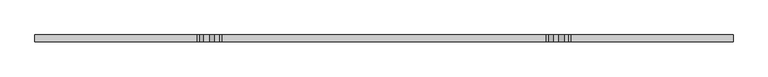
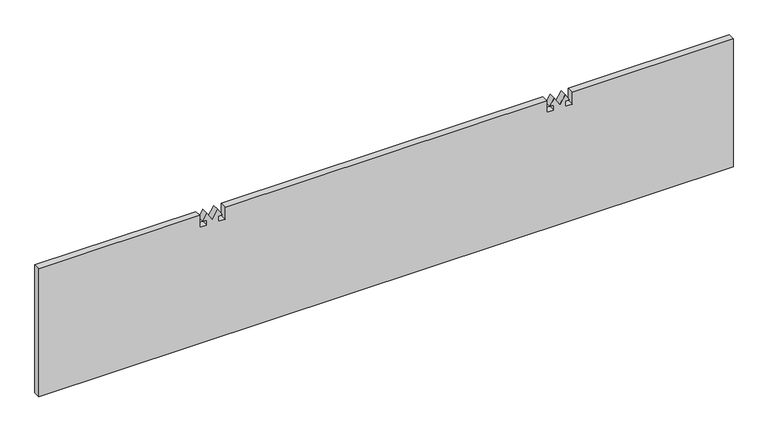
"""IFC4 building model written with IfcOpenShell, lengths in millimetres: proxy geometry, instalación_stratus 9.3dm."""

from ifc_helpers import new_model, si_unit, frame, origin, place, context, project, spatial, polyline, outline, extrude, source, transform, mapped, element, save


def generic_models_269625cc(model_context):
    return source(origin(), model_context, "Body", "SweptSolid", [
        extrude(outline(polyline([(-42.5638653, 291.811158), (-42.5638653, 279.553481), (-20.65, 279.553481), (-20.65, 0.0), (-255.6, 0.0), (-255.6, 1206.5), (-20.65, 1206.5), (-20.65, 926.946519), (-42.5638653, 926.946519), (-42.5638653, 914.688842), (-33.2622966, 914.688842), (-33.2622966, 922.0592541), (-20.65, 914.42236), (-36.4174225, 904.875), (-20.65, 895.32764), (-33.2622966, 887.6907459), (-33.2622966, 895.061158), (-42.5638653, 895.061158), (-42.5638653, 882.803481), (-20.65, 882.803481), (-20.65, 323.696519), (-42.5638653, 323.696519), (-42.5638653, 311.438842), (-33.2622966, 311.438842), (-33.2622966, 318.8092541), (-20.65, 311.17236), (-36.4174225, 301.625), (-20.65, 292.07764), (-33.2622966, 284.4407459), (-33.2622966, 291.811158), (-42.5638653, 291.811158)])), frame((0.0, 1049.5910804, 0.0), z_axis=(0.0, 1.0, 0.0), x_axis=(0.0, 0.0, 1.0)), (0.0, 0.0, 1.0), 12.0),
    ])


if __name__ == "__main__":
    model = new_model("IFC4")
    model_context = context("Model", 3, world=origin())
    ifc_project = project(units=[si_unit("LENGTHUNIT", "METRE", prefix="MILLI")], contexts=[model_context])
    site = spatial("IfcSite", under=ifc_project)
    building = spatial("IfcBuilding", under=site)
    placement = place(None, origin())
    generic_models_shape = generic_models_269625cc(model_context)
    element("IfcBuildingElementProxy", 1, Name="instalación_stratus 9.3dm", ObjectType="instalación_stratus 9.3dm", at=placement, inside=building, context=model_context, shape_type="MappedRepresentation", body=[
        mapped(generic_models_shape, transform((0.0, 0.0, 0.0), x_axis=(1.0, 0.0, 0.0), y_axis=(0.0, 1.0, 0.0), z_axis=(0.0, 0.0, 1.0))),
    ])
    save(model, "model.ifc")
